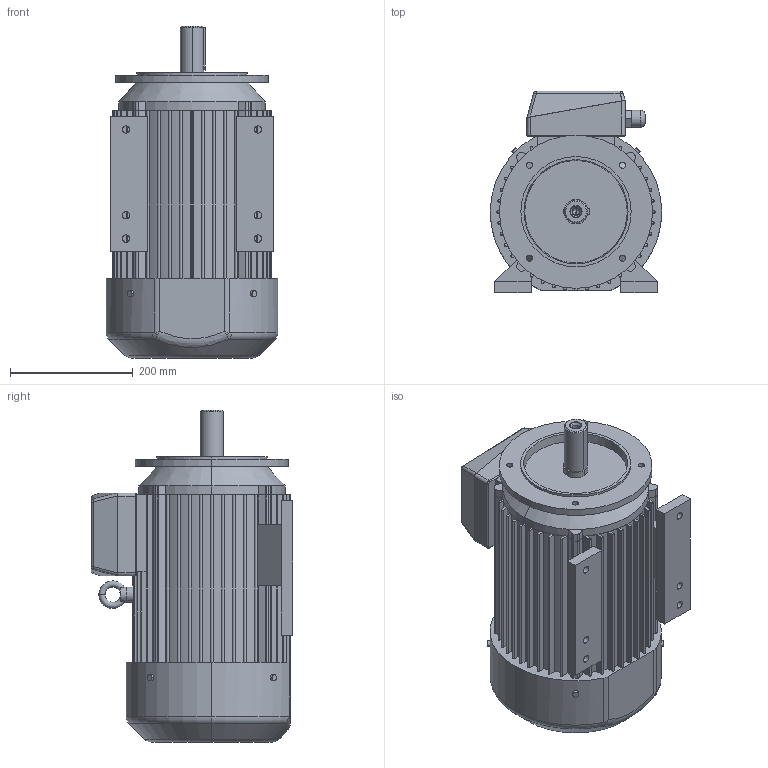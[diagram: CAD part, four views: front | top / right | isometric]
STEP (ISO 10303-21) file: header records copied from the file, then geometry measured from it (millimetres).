
FILE_DESCRIPTION (( 'STEP AP203' ), '1' );
FILE_NAME ('3SIEL132S;M-B14-C1.STEP', '2015-01-09T07:20:04', ( 'Indukta' ), ( 'Celma Indukta S.A.' ), 'SwSTEP 2.0', 'SolidWorks 2003064', '' );
FILE_SCHEMA (( 'CONFIG_CONTROL_DESIGN' ));
Length unit declared in the file: millimetre
Products named in the file (1): 3SIEL132S;M-B14-C1
Bounding box: 280 x 329 x 542 mm (x, y, z)
Volume: 25084962.9 mm3; surface area: 1085820 mm2
Topology: 16 solids, 16 shells, 426 faces, 1105 edges, 708 vertices
Faces by surface type: cylinder 194, plane 191, torus 16, cone 16, bspline 5, sphere 4
Entity records: 16821 total; most frequent: CARTESIAN_POINT 6081, DIRECTION 2316, ORIENTED_EDGE 2194, EDGE_CURVE 1097, AXIS2_PLACEMENT_3D 842, VERTEX_POINT 708, LINE 632, VECTOR 632
